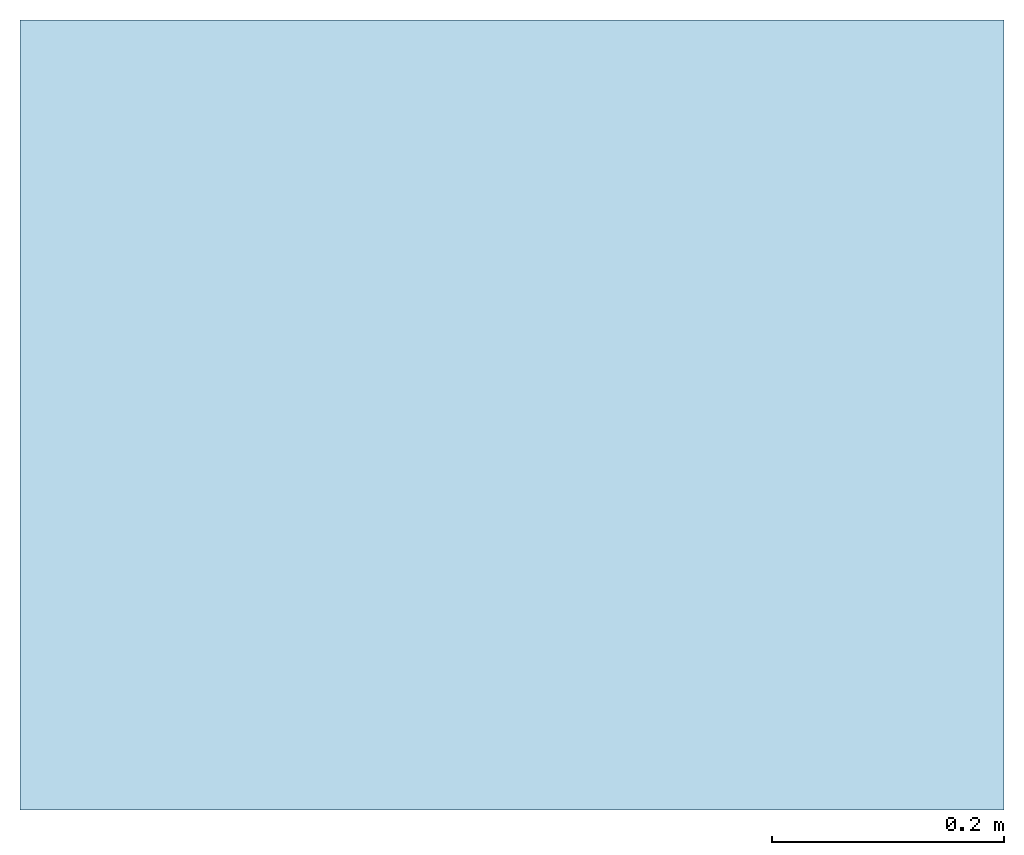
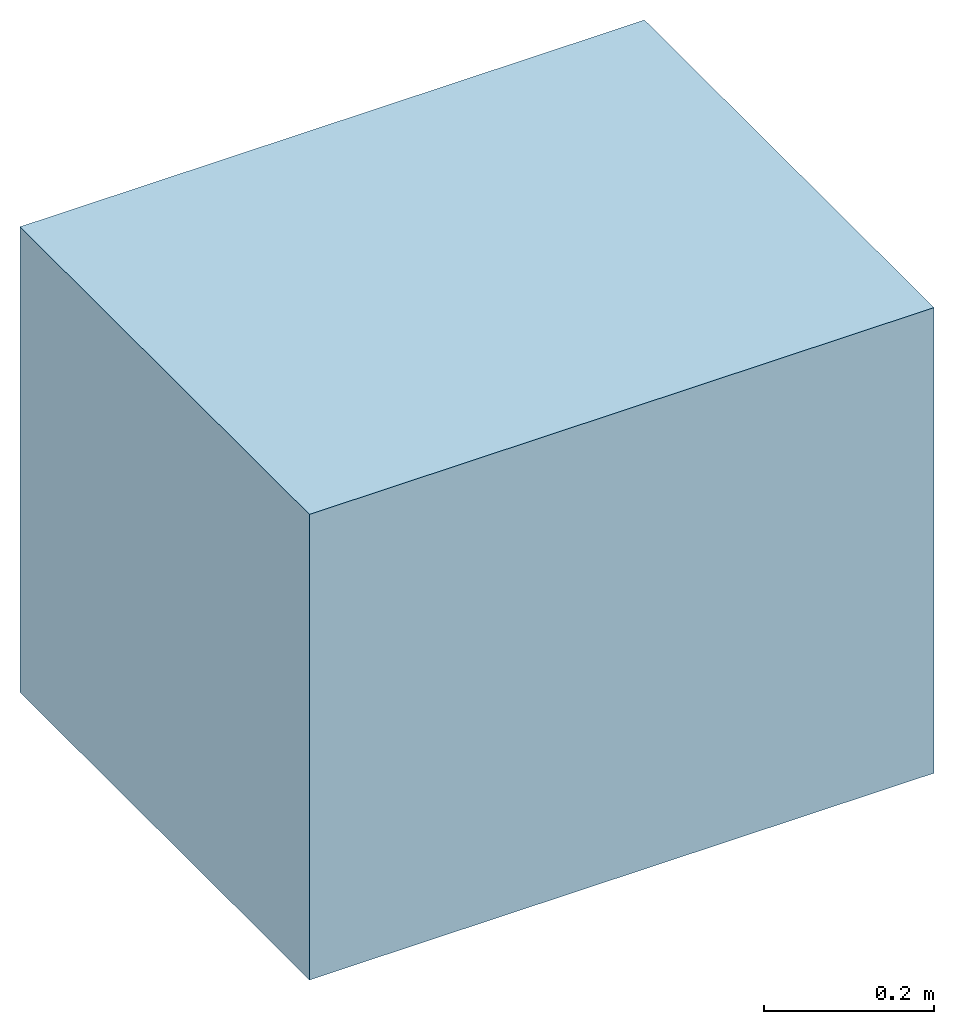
# One storey: 1 slab.
"""IFC4 building model written with IfcOpenShell, lengths in metres."""

from ifc_helpers import new_model, entity, si_unit, converted_unit, direction, frame, frame_2d, origin, origin_2d_with_axis, place, context, subcontext, project, spatial, rectangle, extrude, material, type_object, element, save


model = new_model("IFC4")

# Units and contexts
model_context = context("Model", 3, precision=1e-05, world=origin(), true_north=direction((6.123031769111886e-17, 1.0)))
body_context = subcontext(model_context, "Body", "Model", "MODEL_VIEW")
ifc_project = project(units=[si_unit("LENGTHUNIT", "METRE"), converted_unit("PLANEANGLEUNIT", "DEGREE", entity("IfcPlaneAngleMeasure", 0.017453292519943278), si_unit("PLANEANGLEUNIT", "RADIAN"), dimensions=[0, 0, 0, 0, 0, 0, 0]), si_unit("AREAUNIT", "SQUARE_METRE")], contexts=[model_context])

# Site, building, storey
site_placement = place(None, origin())
site = spatial("IfcSite", under=ifc_project, at=site_placement, Name="Default", CompositionType="ELEMENT")
building_placement = place(site_placement, origin())
building = spatial("IfcBuilding", under=site, at=building_placement, CompositionType="ELEMENT")
storey_placement = place(building_placement, origin())
storey = spatial("IfcBuildingStorey", under=building, at=storey_placement, Name="Ebene 0", CompositionType="ELEMENT", Elevation=0.0)

# Slab
ifc_material = material(Name="DB_Magerbeton", Category="DB_Beton")
slab_type = type_object("IfcSlabType", Name="DB_BSK_76_Fundament_Ecke_aussen_variabel:DB_BSK_76_Fundament_Ecke_aussen_variabel", PredefinedType="BASESLAB", material=ifc_material)
slab_placement = place(storey_placement, origin())
element("IfcSlab", 1, at=slab_placement, inside=storey, type_object=slab_type, Name="DB_BSK_76_Fundament_Ecke_aussen_variabel:DB_BSK_76_Fundament_Ecke_aussen_variabel", ObjectType="DB_BSK_76_Fundament_Ecke_aussen_variabel:DB_BSK_76_Fundament_Ecke_aussen_variabel", PredefinedType="BASESLAB", context=body_context, shape_type="SweptSolid", body=[
    extrude(rectangle(XDim=0.850000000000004, YDim=0.6825000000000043, at=origin_2d_with_axis()), frame((0.3143899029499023, 0.23063990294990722, -1.6549999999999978), z_axis=(0.0, 0.0, 1.0), x_axis=(-1.0, 0.0, 0.0)), (0.0, 0.0, 1.0), 0.1199999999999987),
    extrude(rectangle(XDim=0.849999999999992, YDim=0.6825000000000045, at=frame_2d((4.996003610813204e-16, 0.0), x_axis=(1.0, 0.0))), frame((0.3143899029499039, 0.2306399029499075, -1.5349999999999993), z_axis=(0.0, 0.0, 1.0), x_axis=(-1.0, 0.0, 0.0)), (0.0, 0.0, 1.0), 0.55),
])

save(model, "model.ifc")
